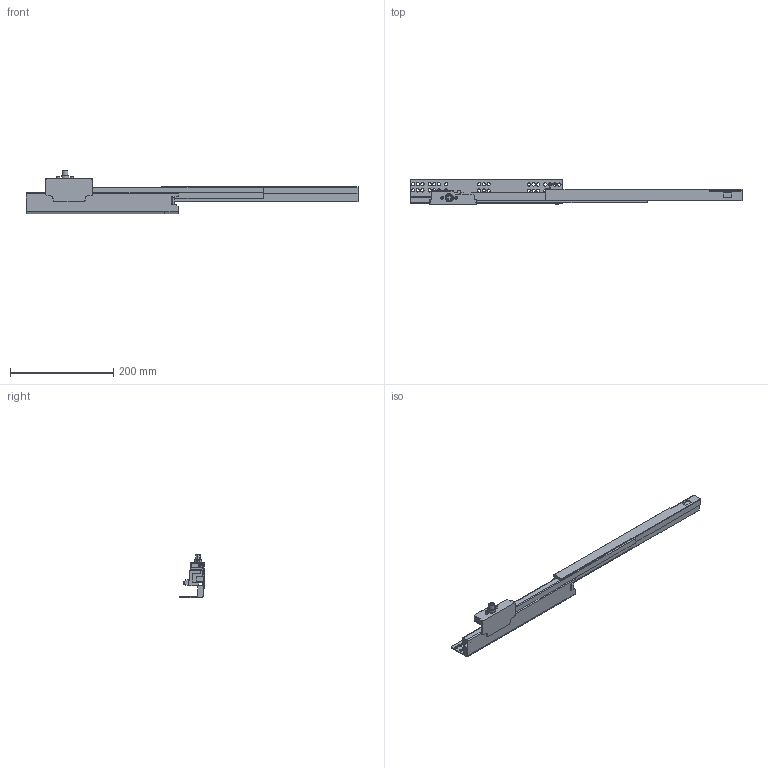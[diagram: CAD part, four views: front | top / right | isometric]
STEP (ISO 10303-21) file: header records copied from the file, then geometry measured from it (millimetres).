
FILE_DESCRIPTION (( 'STEP AP203' ), '1' );
FILE_NAME ('TF10400H-R-DTC3D-open.STEP', '2021-06-03T01:11:21', ( 'df' ), ( 'Microsoft' ), 'SwSTEP 2.0', 'SolidWorks 2018', '' );
FILE_SCHEMA (( 'CONFIG_CONTROL_DESIGN' ));
Length unit declared in the file: millimetre
Products named in the file (1): TF10400H-R-DTC3D-open
Bounding box: 642.3 x 48 x 83.3 mm (x, y, z)
Volume: 401082 mm3; surface area: 118350.4 mm2
Topology: 1 solids, 4 shells, 539 faces, 1395 edges, 863 vertices
Faces by surface type: cylinder 259, plane 169, bspline 104, sphere 4, torus 3
Entity records: 18696 total; most frequent: CARTESIAN_POINT 5686, ORIENTED_EDGE 2768, DIRECTION 2677, EDGE_CURVE 1384, AXIS2_PLACEMENT_3D 996, VERTEX_POINT 863, VECTOR 685, LINE 685
